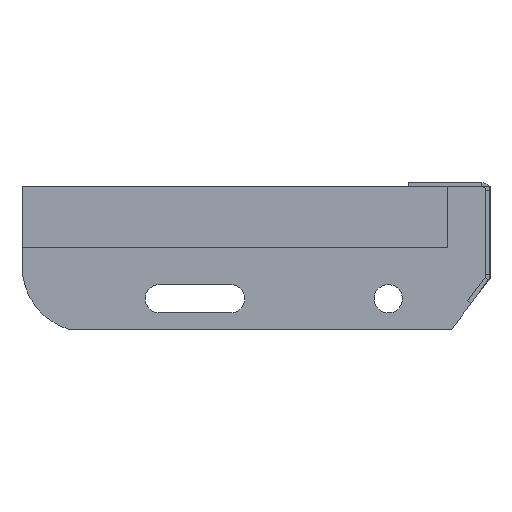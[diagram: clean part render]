
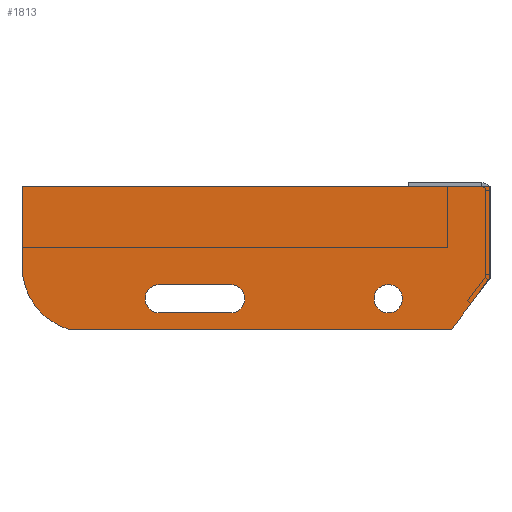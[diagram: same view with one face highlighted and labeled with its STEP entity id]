
A CAD part, left-side view. The second image highlights one B-rep face of the part: STEP entity #1813.
In plain terms, the highlighted planar face has unit normal (-1, 0, 0) as drawn and (0, 0, 1) by its records, which use the part's own axes.
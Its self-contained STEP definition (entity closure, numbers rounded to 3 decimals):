
#5 = CARTESIAN_POINT ( 'NONE',  ( 0., 0., 3. ) ) ;
#18 = VECTOR ( 'NONE', #890, 1000. ) ;
#23 = CARTESIAN_POINT ( 'NONE',  ( -127.5, -62., 3. ) ) ;
#52 = DIRECTION ( 'NONE',  ( 1., 0., 0. ) ) ;
#79 = CARTESIAN_POINT ( 'NONE',  ( 0., 0., 3. ) ) ;
#121 = ORIENTED_EDGE ( 'NONE', *, *, #1546, .T. ) ;
#146 = ORIENTED_EDGE ( 'NONE', *, *, #1697, .F. ) ;
#150 = CIRCLE ( 'NONE', #1685, 7. ) ;
#173 = FACE_BOUND ( 'NONE', #1828, .T. ) ;
#178 = VERTEX_POINT ( 'NONE', #374 ) ;
#229 = CARTESIAN_POINT ( 'NONE',  ( -162.5, -48., 3. ) ) ;
#252 = DIRECTION ( 'NONE',  ( 0., 0., 1. ) ) ;
#257 = EDGE_CURVE ( 'NONE', #338, #348, #1371, .T. ) ;
#261 = CARTESIAN_POINT ( 'NONE',  ( -162.5, -48., 3. ) ) ;
#297 = EDGE_CURVE ( 'NONE', #1280, #862, #150, .T. ) ;
#321 = VERTEX_POINT ( 'NONE', #79 ) ;
#338 = VERTEX_POINT ( 'NONE', #1348 ) ;
#346 = CIRCLE ( 'NONE', #411, 7. ) ;
#348 = VERTEX_POINT ( 'NONE', #1959 ) ;
#374 = CARTESIAN_POINT ( 'NONE',  ( -207.26, -70., 3. ) ) ;
#379 = DIRECTION ( 'NONE',  ( 0., 0., 1. ) ) ;
#386 = VERTEX_POINT ( 'NONE', #261 ) ;
#411 = AXIS2_PLACEMENT_3D ( 'NONE', #659, #1574, #969 ) ;
#462 = VERTEX_POINT ( 'NONE', #1248 ) ;
#477 = VECTOR ( 'NONE', #1239, 1000. ) ;
#489 = DIRECTION ( 'NONE',  ( 0., 0., 1. ) ) ;
#503 = LINE ( 'NONE', #1119, #939 ) ;
#552 = CARTESIAN_POINT ( 'NONE',  ( 0., -45., 3. ) ) ;
#616 = CIRCLE ( 'NONE', #1036, 7. ) ;
#659 = CARTESIAN_POINT ( 'NONE',  ( -127.5, -55., 3. ) ) ;
#667 = FACE_BOUND ( 'NONE', #1246, .T. ) ;
#691 = VERTEX_POINT ( 'NONE', #1594 ) ;
#698 = ORIENTED_EDGE ( 'NONE', *, *, #1162, .F. ) ;
#748 = VECTOR ( 'NONE', #1838, 1000. ) ;
#763 = VERTEX_POINT ( 'NONE', #1164 ) ;
#772 = VERTEX_POINT ( 'NONE', #1924 ) ;
#791 = EDGE_CURVE ( 'NONE', #321, #772, #805, .T. ) ;
#799 = PLANE ( 'NONE',  #1556 ) ;
#805 = LINE ( 'NONE', #1462, #1521 ) ;
#818 = ORIENTED_EDGE ( 'NONE', *, *, #1361, .F. ) ;
#853 = DIRECTION ( 'NONE',  ( -1., 0., 0. ) ) ;
#862 = VERTEX_POINT ( 'NONE', #2001 ) ;
#890 = DIRECTION ( 'NONE',  ( 0.602, 0.799, 0. ) ) ;
#922 = LINE ( 'NONE', #1214, #748 ) ;
#939 = VECTOR ( 'NONE', #1131, 1000. ) ;
#969 = DIRECTION ( 'NONE',  ( 1., 0., 0. ) ) ;
#973 = VECTOR ( 'NONE', #853, 1000. ) ;
#975 = FACE_OUTER_BOUND ( 'NONE', #1977, .T. ) ;
#999 = EDGE_CURVE ( 'NONE', #1042, #386, #1336, .T. ) ;
#1009 = DIRECTION ( 'NONE',  ( 1., 0., 0. ) ) ;
#1036 = AXIS2_PLACEMENT_3D ( 'NONE', #1842, #1377, #1711 ) ;
#1042 = VERTEX_POINT ( 'NONE', #1648 ) ;
#1072 = DIRECTION ( 'NONE',  ( 1., 0., 0. ) ) ;
#1087 = EDGE_CURVE ( 'NONE', #348, #321, #1396, .T. ) ;
#1110 = DIRECTION ( 'NONE',  ( 0., 0., 1. ) ) ;
#1119 = CARTESIAN_POINT ( 'NONE',  ( -230., 0., 3. ) ) ;
#1131 = DIRECTION ( 'NONE',  ( 0., -1., 0. ) ) ;
#1153 = CARTESIAN_POINT ( 'NONE',  ( -50., -55., 3. ) ) ;
#1154 = ORIENTED_EDGE ( 'NONE', *, *, #297, .F. ) ;
#1162 = EDGE_CURVE ( 'NONE', #691, #763, #616, .T. ) ;
#1164 = CARTESIAN_POINT ( 'NONE',  ( -162.5, -62., 3. ) ) ;
#1187 = CARTESIAN_POINT ( 'NONE',  ( -50., -55., 3. ) ) ;
#1214 = CARTESIAN_POINT ( 'NONE',  ( -162.5, -62., 3. ) ) ;
#1216 = EDGE_CURVE ( 'NONE', #178, #338, #2004, .T. ) ;
#1227 = CARTESIAN_POINT ( 'NONE',  ( -18.839, -70., 3. ) ) ;
#1238 = VERTEX_POINT ( 'NONE', #23 ) ;
#1239 = DIRECTION ( 'NONE',  ( 0., 1., 0. ) ) ;
#1241 = EDGE_CURVE ( 'NONE', #1238, #1042, #346, .T. ) ;
#1246 = EDGE_LOOP ( 'NONE', ( #818, #1154 ) ) ;
#1248 = CARTESIAN_POINT ( 'NONE',  ( -230., -39., 3. ) ) ;
#1269 = CARTESIAN_POINT ( 'NONE',  ( -197.5, -39., 3. ) ) ;
#1274 = EDGE_CURVE ( 'NONE', #772, #462, #503, .T. ) ;
#1280 = VERTEX_POINT ( 'NONE', #1291 ) ;
#1291 = CARTESIAN_POINT ( 'NONE',  ( -43., -55., 3. ) ) ;
#1295 = VECTOR ( 'NONE', #1072, 1000. ) ;
#1336 = LINE ( 'NONE', #229, #973 ) ;
#1348 = CARTESIAN_POINT ( 'NONE',  ( -18.839, -70., 3. ) ) ;
#1352 = ORIENTED_EDGE ( 'NONE', *, *, #1854, .F. ) ;
#1361 = EDGE_CURVE ( 'NONE', #862, #1280, #1449, .T. ) ;
#1371 = LINE ( 'NONE', #552, #18 ) ;
#1377 = DIRECTION ( 'NONE',  ( 0., 0., 1. ) ) ;
#1396 = LINE ( 'NONE', #5, #477 ) ;
#1418 = AXIS2_PLACEMENT_3D ( 'NONE', #1494, #1839, #1503 ) ;
#1424 = DIRECTION ( 'NONE',  ( 1., 0., 0. ) ) ;
#1449 = CIRCLE ( 'NONE', #1857, 7. ) ;
#1454 = CIRCLE ( 'NONE', #1418, 7. ) ;
#1462 = CARTESIAN_POINT ( 'NONE',  ( 0., 0., 3. ) ) ;
#1492 = ORIENTED_EDGE ( 'NONE', *, *, #1087, .T. ) ;
#1494 = CARTESIAN_POINT ( 'NONE',  ( -162.5, -55., 3. ) ) ;
#1503 = DIRECTION ( 'NONE',  ( 1., 0., 0. ) ) ;
#1516 = ORIENTED_EDGE ( 'NONE', *, *, #791, .T. ) ;
#1521 = VECTOR ( 'NONE', #1933, 1000. ) ;
#1525 = CIRCLE ( 'NONE', #1789, 32.5 ) ;
#1527 = ORIENTED_EDGE ( 'NONE', *, *, #1216, .T. ) ;
#1546 = EDGE_CURVE ( 'NONE', #462, #178, #1525, .T. ) ;
#1556 = AXIS2_PLACEMENT_3D ( 'NONE', #1269, #489, #1424 ) ;
#1574 = DIRECTION ( 'NONE',  ( 0., 0., 1. ) ) ;
#1594 = CARTESIAN_POINT ( 'NONE',  ( -169.5, -55., 3. ) ) ;
#1637 = ORIENTED_EDGE ( 'NONE', *, *, #257, .T. ) ;
#1648 = CARTESIAN_POINT ( 'NONE',  ( -127.5, -48., 3. ) ) ;
#1684 = DIRECTION ( 'NONE',  ( 1., 0., 0. ) ) ;
#1685 = AXIS2_PLACEMENT_3D ( 'NONE', #1187, #252, #1684 ) ;
#1697 = EDGE_CURVE ( 'NONE', #763, #1238, #922, .T. ) ;
#1711 = DIRECTION ( 'NONE',  ( 1., 0., 0. ) ) ;
#1739 = ORIENTED_EDGE ( 'NONE', *, *, #999, .F. ) ;
#1786 = CARTESIAN_POINT ( 'NONE',  ( -197.5, -39., 3. ) ) ;
#1789 = AXIS2_PLACEMENT_3D ( 'NONE', #1786, #379, #1009 ) ;
#1813 = ADVANCED_FACE ( 'NONE', ( #975, #667, #173 ), #799, .T. ) ;
#1828 = EDGE_LOOP ( 'NONE', ( #146, #698, #1352, #1739, #1990 ) ) ;
#1838 = DIRECTION ( 'NONE',  ( 1., 0., 0. ) ) ;
#1839 = DIRECTION ( 'NONE',  ( 0., 0., 1. ) ) ;
#1842 = CARTESIAN_POINT ( 'NONE',  ( -162.5, -55., 3. ) ) ;
#1854 = EDGE_CURVE ( 'NONE', #386, #691, #1454, .T. ) ;
#1857 = AXIS2_PLACEMENT_3D ( 'NONE', #1153, #1110, #52 ) ;
#1924 = CARTESIAN_POINT ( 'NONE',  ( -230., 0., 3. ) ) ;
#1933 = DIRECTION ( 'NONE',  ( -1., 0., 0. ) ) ;
#1959 = CARTESIAN_POINT ( 'NONE',  ( 0., -45., 3. ) ) ;
#1970 = ORIENTED_EDGE ( 'NONE', *, *, #1274, .T. ) ;
#1977 = EDGE_LOOP ( 'NONE', ( #1492, #1516, #1970, #121, #1527, #1637 ) ) ;
#1990 = ORIENTED_EDGE ( 'NONE', *, *, #1241, .F. ) ;
#2001 = CARTESIAN_POINT ( 'NONE',  ( -57., -55., 3. ) ) ;
#2004 = LINE ( 'NONE', #1227, #1295 ) ;
